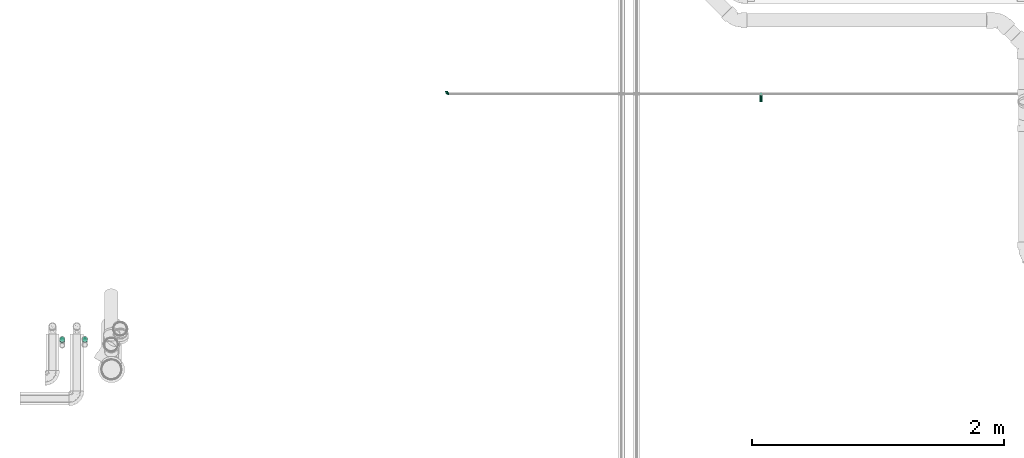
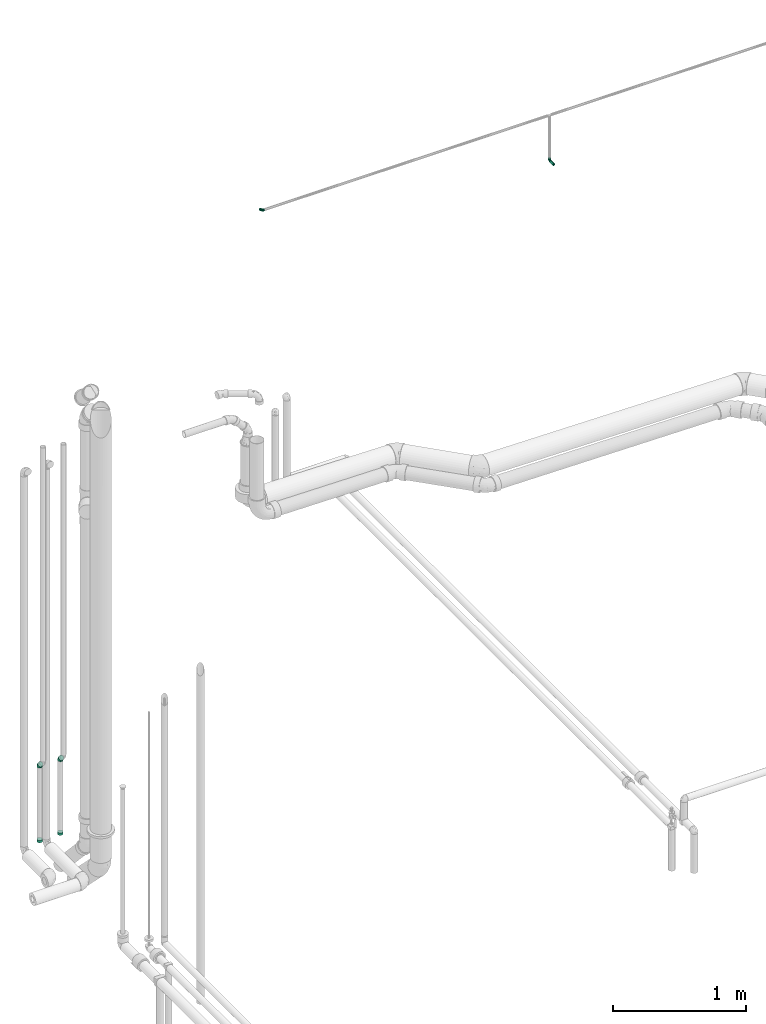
# One storey, part 44 of 78: 6 flow fittings, 1 flow segment.
"""IFC2X3 building model written with IfcOpenShell, lengths in millimetres."""

from ifc_helpers import new_model, entity, si_unit, converted_unit, derived_unit, direction, frame, origin_with_axes, origin_2d_with_axis, place, context, subcontext, project, spatial, hollow_circle, extrude, open_shell, surface_model, source, transform, mapped, type_object, element, save


model = new_model("IFC2X3")

# Units and contexts
model_context = context("Model", 3, precision=0.01, world=frame((0.0, 4.29681676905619e-09, 0.0)), true_north=direction((4.01073788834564e-13, 1.0)))
plan_context = context("Plan", 3, precision=0.01, world=frame((0.0, 4.29681676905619e-09, 0.0)), true_north=direction((4.01073788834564e-13, 1.0)))
body_context = subcontext(model_context, "Body", "Model", "MODEL_VIEW")
ifc_project = project(units=[converted_unit("PLANEANGLEUNIT", "DEGREE", entity("IfcPositiveLengthMeasure", 0.0174532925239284), si_unit("PLANEANGLEUNIT", "RADIAN"), dimensions=[0, 0, 0, 0, 0, 0, 0]), si_unit("AREAUNIT", "SQUARE_METRE"), si_unit("LENGTHUNIT", "METRE", prefix="MILLI"), si_unit("MASSUNIT", "GRAM", prefix="KILO"), si_unit("POWERUNIT", "WATT"), si_unit("PRESSUREUNIT", "PASCAL"), si_unit("FORCEUNIT", "NEWTON", prefix="KILO"), si_unit("ELECTRICVOLTAGEUNIT", "VOLT"), si_unit("ELECTRICCURRENTUNIT", "AMPERE"), si_unit("THERMODYNAMICTEMPERATUREUNIT", "DEGREE_CELSIUS"), si_unit("TIMEUNIT", "SECOND"), si_unit("VOLUMEUNIT", "CUBIC_METRE"), derived_unit("LINEARVELOCITYUNIT", [(si_unit("LENGTHUNIT", "METRE"), 1), (si_unit("TIMEUNIT", "SECOND"), -1)]), derived_unit("VOLUMETRICFLOWRATEUNIT", [(si_unit("VOLUMEUNIT", "CUBIC_METRE"), 1), (si_unit("TIMEUNIT", "SECOND"), -1)]), derived_unit("THERMALTRANSMITTANCEUNIT", [(si_unit("POWERUNIT", "WATT"), 1), (si_unit("THERMODYNAMICTEMPERATUREUNIT", "KELVIN"), -1), (si_unit("AREAUNIT", "SQUARE_METRE"), -1)]), derived_unit("SOUNDPRESSUREUNIT", [(si_unit("PRESSUREUNIT", "PASCAL"), 1)])], contexts=[model_context, plan_context])

# Site, building, storey
site_placement = place(None, frame((0.0, -4.29681676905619e-09, 0.0), z_axis=(0.0, 0.0, 1.0), x_axis=(1.0, 0.0, 0.0)))
site = spatial("IfcSite", under=ifc_project, at=site_placement, Name="ENGM", CompositionType="ELEMENT")
building_placement = place(site_placement, frame((0.0, 4.29681676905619e-09, 0.0), z_axis=(0.0, 0.0, 1.0), x_axis=(1.0, 0.0, 0.0)))
building = spatial("IfcBuilding", under=site, at=building_placement, Name="TH", CompositionType="ELEMENT")
storey_placement = place(building_placement, frame((0.0, 0.0, 205200.0), z_axis=(0.0, 0.0, 1.0), x_axis=(1.0, 0.0, 0.0)))
storey = spatial("IfcBuildingStorey", under=building, at=storey_placement, Name="Nivå D + 1,2 m", CompositionType="ELEMENT", Elevation=205200.0)

# Flow fittings
pipe_fitting_type_1 = type_object("IfcPipeFittingType", Name="magi_pipe_cu_elbow_short_001", PredefinedType="BEND")
shared_shape_1 = source(origin_with_axes(), body_context, "Body", "SurfaceModel", [
    surface_model("IfcShellBasedSurfaceModel", [(-22.0, 0.0, -11.0), (-22.0, -2.84701, -10.62518), (-22.0, 2.84701, -10.62518), (-22.0, 5.5, -9.52628), (-22.0, 7.77817, -7.77817), (-22.0, 10.62518, -2.84701), (-22.0, 9.52628, -5.5), (-22.0, -7.77817, -7.77817), (-22.0, -9.52628, -5.5), (-22.0, -5.5, -9.52628), (-22.0, -10.62518, -2.84701), (-22.0, -9.52628, 5.5), (-22.0, -11.0, 0.0), (-22.0, 10.62518, 2.84701), (-22.0, 9.52628, 5.5), (-22.0, 7.77817, 7.77817), (-22.0, 2.84701, 10.62518), (-22.0, 5.5, 9.52628), (-22.0, -7.77817, 7.77817), (-22.0, -10.62518, 2.84701), (-22.0, -2.84701, 10.62518), (-22.0, 0.0, 11.0), (-22.0, -5.5, 9.52628), (-22.0, 11.0, 0.0), (-2.84701, 22.0, -10.62518), (2.84701, 22.0, -10.62518), (0.0, 22.0, -11.0), (-7.77817, 22.0, -7.77817), (-5.5, 22.0, -9.52628), (-9.52628, 22.0, -5.5), (-10.62518, 22.0, -2.84701), (5.5, 22.0, -9.52628), (9.52628, 22.0, -5.5), (7.77817, 22.0, -7.77817), (10.62518, 22.0, -2.84701), (9.52628, 22.0, 5.5), (11.0, 22.0, 0.0), (-10.62518, 22.0, 2.84701), (-7.77817, 22.0, 7.77817), (-9.52628, 22.0, 5.5), (-5.5, 22.0, 9.52628), (-2.84701, 22.0, 10.62518), (7.77817, 22.0, 7.77817), (10.62518, 22.0, 2.84701), (5.5, 22.0, 9.52628), (0.0, 22.0, 11.0), (2.84701, 22.0, 10.62518), (-11.0, 22.0, 0.0), (-18.49859, -10.0618, 0.0), (-10.24859, -7.85122, 0.0), (-9.34901, -7.11844, 5.09685), (-14.89307, -7.23891, 7.45305), (5.78852, 8.4802, 6.46058), (2.12041, 3.18539, 6.87037), (3.55913, 2.48029, 0.0), (1.01335, 10.61047, 10.36705), (-14.99718, -9.1236, 0.0), (5.14392, 14.4409, 9.10203), (-11.75269, -3.39299, 9.59306), (7.85122, 10.24859, 0.0), (9.1236, 14.99718, 0.0), (-8.06006, 14.23023, 9.19276), (-3.72868, 16.47919, 10.60733), (-15.76443, 3.42828, 10.73288), (-8.21542, -0.66336, 10.02562), (-12.61091, 18.11091, 0.0), (-14.22183, 14.22183, 0.0), (-5.37587, -4.55716, 5.82482), (6.57884, 5.5, 0.0), (-15.57958, 10.44534, 6.62476), (-10.44966, 10.29499, 9.49395), (10.0618, 18.49859, 0.0), (-7.4322, 4.10078, 10.94703), (-2.22445, -1.03187, 7.15282), (0.53942, -0.53942, 0.0), (-3.02405, 7.17381, 10.80133), (-18.11091, 12.61091, 0.0), (-2.48029, -3.55913, 0.0), (-5.5, -6.57884, 0.0), (-9.08269, -0.07613, -10.40197), (-2.22445, -1.03187, -7.15282), (-6.00435, -4.17546, -6.76221), (-8.06006, 14.23023, -9.19276), (-15.76443, 3.42828, -10.73288), (-11.75269, -3.39299, -9.59306), (-15.57958, 10.44534, -6.62476), (-7.4322, 4.10078, -10.94703), (-10.44966, 10.29499, -9.49395), (2.12041, 3.18539, -6.87037), (-3.02405, 7.17381, -10.80133), (-14.89307, -7.23891, -7.45305), (5.14392, 14.4409, -9.10203), (-3.72868, 16.47919, -10.60733), (1.01335, 10.61047, -10.36705), (5.78852, 8.4802, -6.46058), (-9.34901, -7.11844, -5.09685)], [open_shell([[[0, 1, 2]], [[3, 2, 4]], [[5, 6, 4]], [[4, 2, 1]], [[5, 4, 1]], [[7, 8, 9]], [[1, 9, 8]], [[8, 10, 1]], [[11, 1, 10]], [[12, 11, 10]], [[5, 1, 11]], [[11, 13, 5]], [[14, 13, 15]], [[16, 17, 15]], [[13, 16, 15]], [[16, 13, 11]], [[11, 18, 16]], [[11, 12, 19]], [[20, 21, 22]], [[16, 18, 22]], [[21, 16, 22]], [[23, 5, 13]], [[24, 25, 26]], [[27, 24, 28]], [[27, 29, 30]], [[25, 24, 27]], [[25, 27, 30]], [[31, 32, 33]], [[32, 31, 25]], [[25, 34, 32]], [[34, 25, 35]], [[34, 35, 36]], [[35, 25, 30]], [[30, 37, 35]], [[38, 37, 39]], [[38, 40, 41]], [[38, 41, 37]], [[35, 37, 41]], [[41, 42, 35]], [[43, 36, 35]], [[44, 45, 46]], [[44, 42, 41]], [[44, 41, 45]], [[37, 30, 47]], [[11, 19, 48]], [[49, 50, 51]], [[52, 53, 54]], [[52, 55, 53]], [[51, 18, 56]], [[18, 11, 56]], [[41, 57, 45]], [[21, 51, 58]], [[51, 20, 22]], [[57, 59, 60]], [[61, 55, 62]], [[63, 58, 64]], [[65, 66, 61]], [[51, 21, 20]], [[21, 58, 16]], [[67, 58, 50]], [[54, 68, 52]], [[63, 15, 17]], [[19, 12, 48]], [[23, 13, 69]], [[14, 15, 63]], [[62, 40, 38]], [[16, 58, 63]], [[14, 69, 13]], [[63, 17, 16]], [[59, 52, 68]], [[60, 42, 44]], [[57, 46, 45]], [[69, 70, 66]], [[52, 59, 57]], [[39, 62, 38]], [[60, 35, 42]], [[44, 57, 60]], [[44, 46, 57]], [[18, 51, 22]], [[43, 71, 36]], [[51, 56, 49]], [[70, 69, 72]], [[73, 74, 53]], [[75, 72, 73]], [[14, 63, 69]], [[47, 65, 37]], [[35, 71, 43]], [[55, 57, 62]], [[52, 57, 55]], [[41, 40, 62]], [[60, 71, 35]], [[37, 61, 39]], [[48, 56, 11]], [[61, 62, 39]], [[62, 57, 41]], [[69, 63, 72]], [[53, 75, 73]], [[69, 66, 76]], [[67, 64, 58]], [[75, 53, 55]], [[67, 77, 73]], [[55, 61, 75]], [[70, 75, 61]], [[50, 49, 78]], [[67, 50, 78]], [[51, 50, 58]], [[77, 74, 73]], [[73, 72, 64]], [[67, 78, 77]], [[73, 64, 67]], [[63, 64, 72]], [[37, 65, 61]], [[75, 70, 72]], [[23, 69, 76]], [[66, 70, 61]], [[53, 74, 54]], [[79, 80, 81]], [[65, 30, 82]], [[3, 4, 83]], [[2, 84, 0]], [[5, 23, 85]], [[8, 48, 10]], [[83, 6, 85]], [[85, 6, 5]], [[86, 85, 87]], [[83, 86, 79]], [[83, 84, 2]], [[48, 12, 10]], [[80, 77, 81]], [[88, 80, 89]], [[8, 7, 56]], [[9, 1, 90]], [[91, 31, 60]], [[7, 9, 90]], [[90, 1, 0]], [[84, 90, 0]], [[7, 90, 56]], [[29, 92, 82]], [[6, 83, 4]], [[85, 23, 76]], [[80, 88, 74]], [[82, 66, 65]], [[93, 82, 92]], [[29, 82, 30]], [[29, 27, 92]], [[27, 28, 92]], [[71, 60, 32]], [[91, 92, 24]], [[56, 48, 8]], [[34, 36, 71]], [[28, 24, 92]], [[94, 88, 93]], [[26, 91, 24]], [[31, 91, 25]], [[83, 2, 3]], [[94, 93, 91]], [[33, 60, 31]], [[89, 93, 88]], [[25, 91, 26]], [[71, 32, 34]], [[92, 91, 93]], [[59, 91, 60]], [[86, 83, 85]], [[95, 78, 49]], [[33, 32, 60]], [[66, 87, 85]], [[94, 59, 68]], [[89, 80, 86]], [[49, 56, 90]], [[94, 54, 88]], [[59, 94, 91]], [[95, 90, 84]], [[87, 89, 86]], [[82, 93, 89]], [[81, 78, 95]], [[90, 95, 49]], [[81, 95, 84]], [[79, 81, 84]], [[82, 87, 66]], [[83, 79, 84]], [[80, 79, 86]], [[77, 80, 74]], [[77, 78, 81]], [[47, 30, 65]], [[66, 85, 76]], [[89, 87, 82]], [[54, 94, 68]], [[54, 74, 88]]])]),
])
for number, where, z_axis, x_axis, name in (
    (1, (898499.99953, 482016.52017, 8070.08702000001), (0.0, 0.0, 1.0), (0.0, -1.0, 0.0), "magi_pipe_cu_elbow_short_001"),
    (2, (901000.85557, 482016.52017, 7655.08702000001), (1.0, 0.0, 0.0), (0.0, 1.0, 0.0), "magi_pipe_cu_elbow_short_001"),
):
    element("IfcFlowFitting", number, at=place(storey_placement, frame(where, z_axis=z_axis, x_axis=x_axis)), inside=storey, type_object=pipe_fitting_type_1, Name=name, context=body_context, shape_type="MappedRepresentation", body=[
        mapped(shared_shape_1, transform((0.0, 0.0, 0.0), scale=1.0)),
    ])
pipe_fitting_type_2 = type_object("IfcPipeFittingType", Name="magi_pipe_fe_elbow_short_001", PredefinedType="BEND")
shared_shape_2 = source(origin_with_axes(), body_context, "Body", "SurfaceModel", [
    surface_model("IfcShellBasedSurfaceModel", [(-17.56266, 10.6, -18.35974), (-17.56266, 5.48696, -20.47763), (-17.56266, 0.0, -21.2), (-17.56266, 14.99066, -14.99066), (-17.56266, 20.47763, -5.48696), (-17.56266, 18.35974, -10.6), (-17.56266, -14.99066, 14.99066), (-17.56266, -21.2, 0.0), (-17.56266, -10.6, -18.35974), (-17.56266, -14.99066, -14.99066), (-17.56266, -5.48696, -20.47763), (-17.56266, -20.47763, -5.48696), (-17.56266, -18.35974, -10.6), (-17.56266, 10.6, 18.35974), (-17.56266, 20.47763, 5.48696), (-17.56266, 18.35974, 10.6), (-17.56266, 14.99066, 14.99066), (-17.56266, 0.0, 21.2), (-17.56266, 5.48696, 20.47763), (-17.56266, -20.47763, 5.48696), (-17.56266, -18.35974, 10.6), (-17.56266, -10.6, 18.35974), (-17.56266, -5.48696, 20.47763), (-17.56266, 21.2, 0.0), (12.41867, 12.41867, -21.2), (8.5388, 16.29854, -20.47763), (4.92334, 19.91401, -18.35974), (1.81867, 23.01867, -14.99066), (-0.56362, 25.40097, -10.6), (-2.0612, 26.89854, -5.48696), (23.01867, 1.81867, -14.99066), (16.29854, 8.5388, -20.47763), (19.91401, 4.92334, -18.35974), (25.40097, -0.56362, -10.6), (27.40934, -2.57199, 0.0), (26.89854, -2.0612, -5.48696), (23.01867, 1.81867, 14.99066), (-2.0612, 26.89854, 5.48696), (4.92334, 19.91401, 18.35974), (-0.56362, 25.40097, 10.6), (12.41867, 12.41867, 21.2), (1.81867, 23.01867, 14.99066), (8.5388, 16.29854, 20.47763), (25.40097, -0.56362, 10.6), (26.89854, -2.0612, 5.48696), (19.91401, 4.92334, 18.35974), (16.29854, 8.5388, 20.47763), (-2.57199, 27.40934, 0.0), (-8.40024, -7.77386, 19.37571), (-4.69017, -11.98175, 16.35875), (2.17676, -5.25517, 19.10859), (-6.84574, -16.21398, 12.41342), (16.30569, -6.62435, 12.41342), (-6.32725, -2.04119, 20.91914), (-8.14571, 8.8219, 19.81901), (-2.01641, 4.86804, 21.1255), (-10.62217, 2.93771, 21.07135), (0.62927, 12.74499, 19.78718), (3.83247, 10.03513, 20.89165), (5.39951, -13.03557, 11.81412), (11.43682, 0.44291, 19.37571), (-8.73345, 21.08441, 8.70987), (-9.34914, 17.77933, 13.37863), (-6.0219, 14.53816, 17.30779), (1.82504, -17.82225, 3.74766), (9.69168, -14.69469, 3.74766), (6.26896, -15.1346, 7.37727), (-5.39332, -18.77937, 0.0), (-5.97409, -19.77446, 3.86222), (20.4312, -8.10976, 4.0775), (15.65707, -10.28132, 7.36222), (-8.49154, 22.7164, 4.45437), (-3.80123, -18.34121, 7.36222), (5.91738, 3.0307, 20.91914), (11.78883, -5.15593, 16.35875), (6.77601, -16.35874, 0.0), (17.09267, -9.46536, 0.0), (-9.44977, 22.81375, 0.0), (3.55838, -8.59068, 16.90582), (-6.32725, -2.04119, -20.91914), (11.31173, -13.89274, -3.74766), (3.53767, -17.24376, -3.74766), (6.26896, -15.1346, -7.37727), (5.91738, 3.0307, -20.91914), (-9.45703, 8.56711, -19.78718), (-9.80587, 4.38594, -20.89165), (-5.96104, 19.18272, -13.37863), (11.78883, -5.15593, -16.35875), (-8.73345, 21.08441, -8.70987), (15.65707, -10.28132, -7.36222), (-10.05849, 22.06734, -4.45437), (-0.47814, 11.99791, -19.81901), (-8.71257, -20.1815, -4.0775), (-3.80123, -18.34121, -7.36222), (5.39951, -13.03557, -11.81412), (16.30569, -6.62435, -12.41342), (-6.84574, -16.21398, -12.41342), (-4.69017, -11.98175, -16.35875), (3.55838, -8.59068, -16.90582), (-8.40024, -7.77386, -19.37571), (2.17676, -5.25517, -19.10859), (11.43682, 0.44291, -19.37571), (-2.01641, 4.86804, -21.1255), (-6.0219, 14.53816, -17.3078), (18.20697, -9.75834, -3.86222), (5.43374, 9.58829, -21.07135)], [open_shell([[[0, 1, 2]], [[3, 0, 2]], [[4, 5, 3]], [[2, 4, 3]], [[6, 2, 7]], [[8, 9, 10]], [[9, 2, 10]], [[11, 7, 12]], [[12, 2, 9]], [[12, 7, 2]], [[6, 4, 2]], [[13, 14, 4]], [[15, 14, 16]], [[13, 4, 6]], [[16, 14, 13]], [[13, 17, 18]], [[19, 20, 7]], [[7, 20, 6]], [[21, 22, 6]], [[17, 6, 22]], [[6, 17, 13]], [[23, 4, 14]], [[24, 25, 26]], [[24, 26, 27]], [[27, 28, 29]], [[27, 29, 24]], [[24, 29, 30]], [[31, 30, 32]], [[31, 24, 30]], [[33, 34, 35]], [[34, 33, 30]], [[29, 34, 30]], [[29, 36, 34]], [[29, 37, 38]], [[38, 37, 39]], [[29, 38, 40]], [[38, 39, 41]], [[40, 38, 42]], [[36, 43, 34]], [[44, 34, 43]], [[45, 40, 46]], [[40, 45, 36]], [[36, 29, 40]], [[37, 29, 47]], [[48, 49, 50]], [[6, 51, 49]], [[21, 6, 49]], [[43, 36, 52]], [[17, 22, 53]], [[22, 21, 48]], [[13, 18, 54]], [[55, 56, 53]], [[17, 56, 18]], [[42, 57, 58]], [[49, 51, 59]], [[45, 46, 60]], [[61, 15, 62]], [[63, 16, 13]], [[64, 65, 66]], [[67, 64, 68]], [[69, 44, 70]], [[61, 71, 14]], [[20, 19, 72]], [[23, 14, 71]], [[14, 15, 61]], [[6, 20, 51]], [[54, 63, 13]], [[72, 66, 59]], [[7, 67, 68]], [[38, 41, 63]], [[40, 58, 73]], [[36, 45, 74]], [[39, 37, 61]], [[73, 46, 40]], [[64, 67, 75]], [[36, 74, 52]], [[55, 58, 57]], [[74, 45, 60]], [[20, 72, 51]], [[76, 69, 65]], [[44, 69, 34]], [[56, 54, 18]], [[71, 61, 37]], [[77, 71, 47]], [[52, 59, 70]], [[49, 78, 50]], [[50, 73, 53]], [[42, 38, 57]], [[50, 60, 73]], [[61, 62, 39]], [[55, 53, 73]], [[41, 39, 62]], [[63, 54, 57]], [[48, 53, 22]], [[15, 16, 62]], [[44, 43, 70]], [[59, 51, 72]], [[78, 59, 74]], [[59, 52, 74]], [[70, 43, 52]], [[16, 63, 62]], [[41, 62, 63]], [[63, 57, 38]], [[55, 57, 54]], [[49, 48, 21]], [[53, 48, 50]], [[73, 60, 46]], [[74, 60, 50]], [[73, 58, 55]], [[40, 42, 58]], [[53, 56, 17]], [[54, 56, 55]], [[64, 66, 72]], [[70, 59, 66]], [[64, 72, 68]], [[65, 64, 75]], [[76, 65, 75]], [[70, 66, 65]], [[72, 19, 68]], [[7, 68, 19]], [[59, 78, 49]], [[74, 50, 78]], [[47, 71, 37]], [[71, 77, 23]], [[65, 69, 70]], [[34, 69, 76]], [[10, 2, 79]], [[80, 81, 82]], [[24, 31, 83]], [[84, 85, 1]], [[5, 86, 3]], [[32, 30, 87]], [[88, 86, 5]], [[33, 35, 89]], [[4, 90, 88]], [[26, 25, 91]], [[92, 11, 93]], [[0, 84, 1]], [[67, 92, 81]], [[94, 95, 89]], [[11, 92, 7]], [[96, 9, 97]], [[9, 8, 97]], [[98, 94, 97]], [[11, 12, 93]], [[9, 96, 12]], [[99, 8, 10]], [[96, 94, 93]], [[100, 79, 83]], [[101, 83, 31]], [[23, 77, 90]], [[80, 76, 75]], [[47, 29, 90]], [[102, 83, 79]], [[27, 26, 103]], [[88, 5, 4]], [[28, 86, 88]], [[99, 97, 8]], [[91, 103, 26]], [[85, 79, 2]], [[103, 91, 84]], [[3, 103, 0]], [[76, 80, 104]], [[24, 105, 25]], [[101, 31, 32]], [[89, 82, 94]], [[30, 33, 95]], [[87, 100, 101]], [[87, 95, 94]], [[100, 99, 79]], [[34, 76, 104]], [[28, 27, 86]], [[105, 91, 25]], [[95, 87, 30]], [[87, 98, 100]], [[105, 83, 102]], [[102, 85, 84]], [[29, 88, 90]], [[33, 89, 95]], [[29, 28, 88]], [[94, 96, 97]], [[93, 12, 96]], [[27, 103, 86]], [[3, 86, 103]], [[103, 84, 0]], [[102, 84, 91]], [[79, 99, 10]], [[97, 99, 100]], [[87, 101, 32]], [[83, 101, 100]], [[79, 85, 102]], [[2, 1, 85]], [[83, 105, 24]], [[91, 105, 102]], [[80, 82, 89]], [[93, 94, 82]], [[80, 89, 104]], [[81, 80, 75]], [[67, 81, 75]], [[93, 82, 81]], [[89, 35, 104]], [[34, 104, 35]], [[94, 98, 87]], [[97, 100, 98]], [[23, 90, 4]], [[90, 77, 47]], [[81, 92, 93]], [[7, 92, 67]]])]),
])
for number, where, z_axis, x_axis, name in (
    (3, (895447.40675, 480067.85063, 5232.39999999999), (1.0, 0.0, 0.0), (0.0, 0.0, 1.0), "magi_pipe_fe_elbow_short_001"),
    (4, (895628.1602, 480067.85063, 5227.39999999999), (1.0, 0.0, 0.0), (0.0, 0.0, 1.0), "magi_pipe_fe_elbow_short_001"),
):
    element("IfcFlowFitting", number, at=place(storey_placement, frame(where, z_axis=z_axis, x_axis=x_axis)), inside=storey, type_object=pipe_fitting_type_2, Name=name, context=body_context, shape_type="MappedRepresentation", body=[
        mapped(shared_shape_2, transform((0.0, 0.0, 0.0), scale=1.0)),
    ])
pipe_fitting_type_3 = type_object("IfcPipeFittingType", Name="magi_pipe_fe_plug_001", PredefinedType="OBSTRUCTION")
shared_shape_3 = source(origin_with_axes(), body_context, "Body", "SurfaceModel", [
    surface_model("IfcShellBasedSurfaceModel", [(0.0, 0.0, -21.2), (0.0, -5.48696, -20.47763), (0.0, 5.48696, -20.47763), (0.0, 10.6, -18.35974), (0.0, 20.47763, -5.48696), (0.0, 18.35974, -10.6), (0.0, 14.99066, -14.99066), (0.0, -14.99066, -14.99066), (0.0, -18.35974, -10.6), (0.0, -10.6, -18.35974), (0.0, -20.47763, -5.48696), (0.0, -21.2, 0.0), (0.0, -18.35974, 10.6), (0.0, 20.47763, 5.48696), (0.0, 18.35974, 10.6), (0.0, 10.6, 18.35974), (0.0, 14.99066, 14.99066), (0.0, 5.48696, 20.47763), (0.0, 0.0, 21.2), (0.0, -14.99066, 14.99066), (0.0, -10.6, 18.35974), (0.0, -20.47763, 5.48696), (0.0, -5.48696, 20.47763), (0.0, 21.2, 0.0), (21.2, 5.48696, -20.47763), (21.2, -5.48696, -20.47763), (21.2, 0.0, -21.2), (21.2, 14.99066, -14.99066), (21.2, 10.6, -18.35974), (21.2, 18.35974, -10.6), (21.2, 20.47763, -5.48696), (21.2, -21.2, 0.0), (21.2, -10.6, -18.35974), (21.2, -18.35974, -10.6), (21.2, -14.99066, -14.99066), (21.2, -20.47763, -5.48696), (21.2, -20.47763, 5.48696), (21.2, 21.2, 0.0), (21.2, 20.47763, 5.48696), (21.2, 18.35974, 10.6), (21.2, 10.6, 18.35974), (21.2, 14.99066, 14.99066), (21.2, 0.0, 21.2), (21.2, 5.48696, 20.47763), (21.2, -14.99066, 14.99066), (21.2, -18.35974, 10.6), (21.2, -10.6, 18.35974), (21.2, -5.48696, 20.47763)], [open_shell([[[0, 1, 2]], [[3, 2, 4]], [[4, 5, 6]], [[3, 4, 6]], [[4, 2, 1]], [[7, 8, 9]], [[1, 9, 8]], [[10, 11, 8]], [[1, 8, 12]], [[11, 12, 8]], [[4, 1, 12]], [[12, 13, 4]], [[14, 13, 15]], [[15, 13, 12]], [[16, 14, 15]], [[17, 15, 18]], [[19, 20, 12]], [[12, 11, 21]], [[22, 18, 20]], [[15, 12, 20]], [[15, 20, 18]], [[23, 4, 13]], [[24, 25, 26]], [[27, 24, 28]], [[29, 30, 24]], [[29, 24, 27]], [[31, 24, 30]], [[32, 33, 34]], [[33, 32, 25]], [[33, 31, 35]], [[31, 33, 25]], [[25, 24, 31]], [[30, 36, 31]], [[37, 38, 39]], [[37, 39, 40]], [[37, 40, 36]], [[40, 39, 41]], [[42, 40, 43]], [[36, 44, 45]], [[44, 36, 46]], [[46, 42, 47]], [[46, 36, 40]], [[40, 42, 46]], [[37, 36, 30]], [[36, 11, 31]], [[45, 21, 36]], [[19, 44, 46]], [[45, 44, 12]], [[20, 46, 47]], [[45, 12, 21]], [[21, 11, 36]], [[22, 42, 18]], [[22, 20, 47]], [[19, 46, 20]], [[19, 12, 44]], [[42, 22, 47]], [[40, 17, 43]], [[41, 15, 40]], [[39, 38, 14]], [[41, 39, 16]], [[23, 38, 37]], [[40, 15, 17]], [[17, 18, 43]], [[13, 14, 38]], [[16, 39, 14]], [[16, 15, 41]], [[23, 13, 38]], [[43, 18, 42]], [[30, 23, 37]], [[29, 4, 30]], [[6, 27, 28]], [[29, 27, 5]], [[3, 28, 24]], [[29, 5, 4]], [[4, 23, 30]], [[2, 26, 0]], [[2, 3, 24]], [[6, 28, 3]], [[6, 5, 27]], [[26, 2, 24]], [[32, 1, 25]], [[34, 9, 32]], [[8, 33, 35]], [[34, 33, 7]], [[10, 35, 31]], [[32, 9, 1]], [[1, 0, 25]], [[10, 8, 35]], [[7, 33, 8]], [[7, 9, 34]], [[11, 10, 31]], [[25, 0, 26]]])]),
])
for number, where, z_axis, x_axis, name in (
    (5, (895628.1602, 480067.85063, 4554.89999999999), (0.0, 1.0, 0.0), (0.0, 0.0, -1.0), "magi_pipe_fe_plug_001"),
    (6, (895447.40675, 480067.85063, 4549.89999999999), (0.0, -1.0, 0.0), (0.0, 0.0, -1.0), "magi_pipe_fe_plug_001"),
):
    element("IfcFlowFitting", number, at=place(storey_placement, frame(where, z_axis=z_axis, x_axis=x_axis)), inside=storey, type_object=pipe_fitting_type_3, Name=name, context=body_context, shape_type="MappedRepresentation", body=[
        mapped(shared_shape_3, transform((0.0, 0.0, 0.0), scale=1.0)),
    ])

# Flow segment
pipe_segment_type = type_object("IfcPipeSegmentType", Name="Kobberrør", PredefinedType="RIGIDSEGMENT")
shared_shape_4 = source(origin_with_axes(), body_context, "Body", "SweptSolid", [
    extrude(hollow_circle(Radius=11.0, WallThickness=2.0, at=origin_2d_with_axis()), frame((0.0, 0.0, 0.0), z_axis=(1.0, 0.0, 0.0), x_axis=(0.0, 1.0, 0.0)), (0.0, 0.0, 1.0), 43.0),
])
flow_segment_placement = place(storey_placement, frame((901000.85557, 481951.52017, 7655.08702000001), z_axis=(0.0, 0.0, 1.0), x_axis=(0.0, 1.0, 0.0)))
element("IfcFlowSegment", 7, at=flow_segment_placement, inside=storey, type_object=pipe_segment_type, Name="Kobberrør", context=body_context, shape_type="MappedRepresentation", body=[
    mapped(shared_shape_4, transform((0.0, 0.0, 0.0), scale=1.0)),
])

save(model, "model.ifc")
